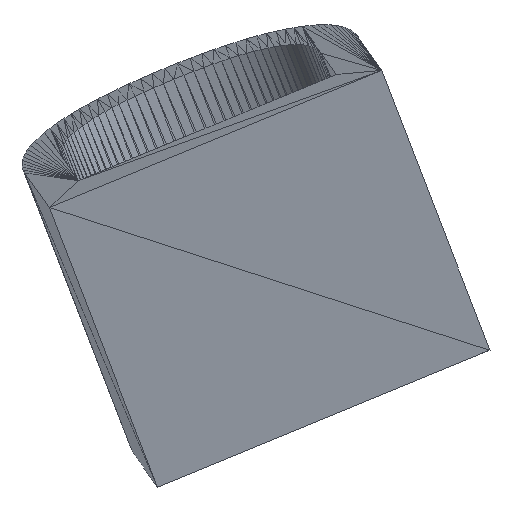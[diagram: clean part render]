
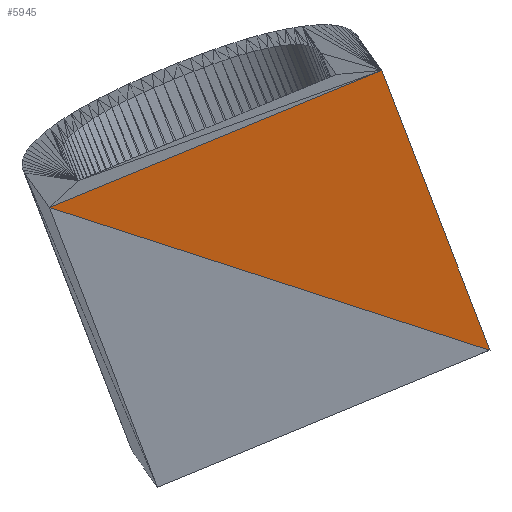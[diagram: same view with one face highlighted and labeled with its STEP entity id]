
A CAD part, left-side view. The second image highlights one B-rep face of the part: STEP entity #5945.
In plain terms, the highlighted planar face has unit normal (-0.953, -0.176, -0.248) as drawn and (0.953, 0.176, 0.248) by its records, which use the part's own axes.
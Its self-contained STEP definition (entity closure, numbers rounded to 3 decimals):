
#77=DIRECTION('',(0.248,-0.922,-0.299));
#139=DIRECTION('',(0.296,-0.345,-0.891));
#478=DIRECTION('',(-0.071,0.922,-0.38));
#578=VECTOR('',#77,1.);
#640=VECTOR('',#139,1.);
#979=VECTOR('',#478,1.);
#1048=CARTESIAN_POINT('',(-4.95,-3.991,0.313));
#1049=CARTESIAN_POINT('',(-4.98,-3.593,0.149));
#1251=CARTESIAN_POINT('',(-4.839,-4.12,-0.021));
#1252=VERTEX_POINT('',#1048);
#1253=VERTEX_POINT('',#1049);
#1455=VERTEX_POINT('',#1251);
#1456=LINE('',#1048,#979);
#1459=LINE('',#1048,#640);
#1460=LINE('',#1049,#578);
#2068=EDGE_CURVE('',#1252,#1253,#1456,.T.);
#2071=EDGE_CURVE('',#1252,#1455,#1459,.T.);
#2072=EDGE_CURVE('',#1253,#1455,#1460,.T.);
#2683=ORIENTED_EDGE('',*,*,#2071,.T.);
#3292=ORIENTED_EDGE('',*,*,#2068,.F.);
#3296=ORIENTED_EDGE('',*,*,#2072,.F.);
#3905=EDGE_LOOP('',(#3292,#2683,#3296));
#4313=FACE_OUTER_BOUND('',#3905,.T.);
#4722=DIRECTION('',(0.953,0.176,0.248));
#4723=AXIS2_PLACEMENT_3D('',#1049,#4722,#478);
#5537=PLANE('',#4723);
#5945=ADVANCED_FACE('',(#4313),#5537,.T.);
